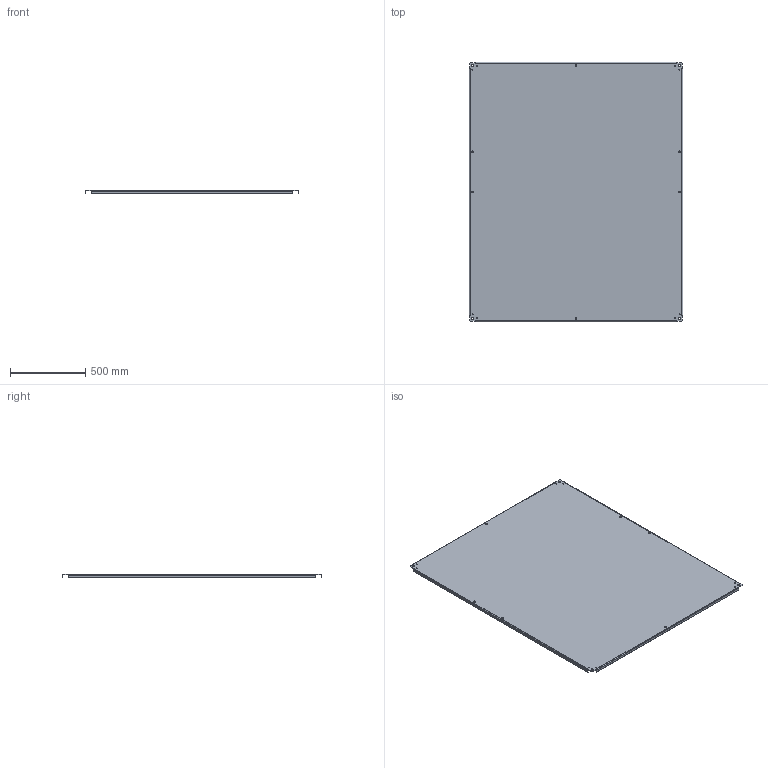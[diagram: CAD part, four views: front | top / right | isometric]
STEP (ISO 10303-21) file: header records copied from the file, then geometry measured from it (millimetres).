
FILE_DESCRIPTION (( 'STEP AP203' ), '1' );
FILE_NAME ('26290.step', '2014-01-14T10:56:53', ( '' ), ( '' ), 'SwSTEP 2.0', 'SolidWorks 2010', '' );
FILE_SCHEMA (( 'CONFIG_CONTROL_DESIGN' ));
Length unit declared in the file: inch
Products named in the file (2): 26290; 87791200_87791200
Assembly tree (1 placements, depth 2):
  26290
    87791200_87791200
Bounding box: 1422.4 x 1727.2 x 21.34 mm (x, y, z)
Volume: 7777749.7 mm3; surface area: 5124656 mm2
Topology: 1 solids, 1 shells, 298 faces, 828 edges, 544 vertices
Faces by surface type: bspline 132, plane 130, cylinder 36
Entity records: 14476 total; most frequent: CARTESIAN_POINT 7438, ORIENTED_EDGE 1656, DIRECTION 984, EDGE_CURVE 828, VERTEX_POINT 544, LINE 484, VECTOR 484, EDGE_LOOP 338
